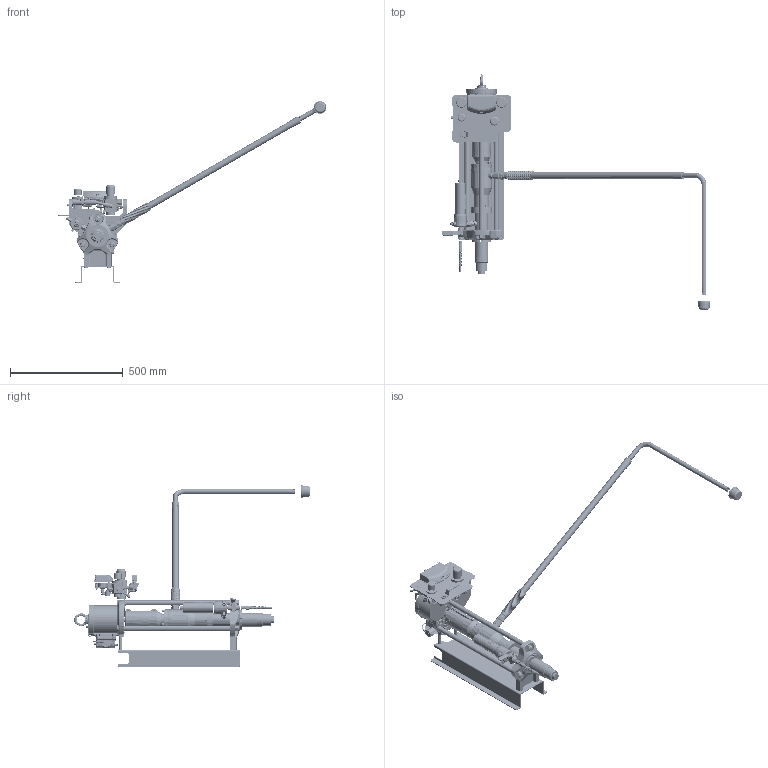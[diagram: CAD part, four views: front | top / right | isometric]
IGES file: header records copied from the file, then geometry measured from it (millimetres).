
Start section:  PTC IGES file: g15b01-en-k.igs
Global section: file name: g15b01-en-k.igs; native system: Creo Parametric by PTC Inc.; preprocessor: 2019030; author: qusrh3; organization: Unknown; date: 20200305.090505; units: inch
Bounding box: 1194.53 x 1046.34 x 808.56 mm (x, y, z)
Surface area: 1688406.2 mm2 (no closed solid volume)
Topology: 0 solids, 0 shells, 4317 faces, 21928 edges, 21896 vertices
Faces by surface type: revolution 2149, bspline 2147, extrusion 21
